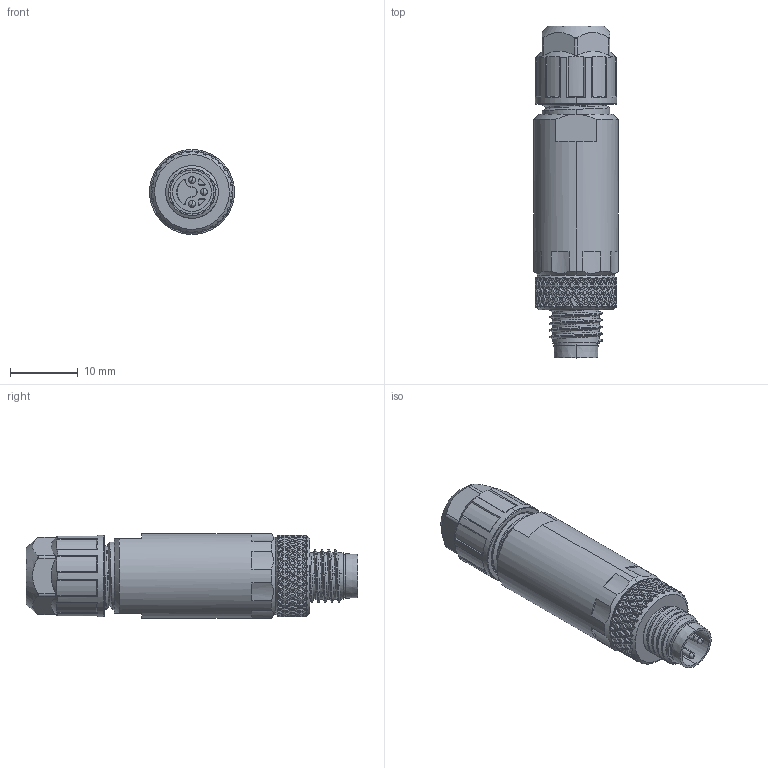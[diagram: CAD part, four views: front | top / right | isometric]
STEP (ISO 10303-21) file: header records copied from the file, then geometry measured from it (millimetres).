
FILE_DESCRIPTION (( 'STEP AP203' ), '1' );
FILE_NAME ('63F041.STEP', '2022-08-18T02:02:02', ( '' ), ( '' ), 'SwSTEP 2.0', 'SolidWorks 2016', '' );
FILE_SCHEMA (( 'CONFIG_CONTROL_DESIGN' ));
Products named in the file (1): 63F041
Bounding box: 12.48 x 48.85 x 12.5 mm (x, y, z)
Volume: 3889.7 mm3; surface area: 3918.2 mm2
Topology: 1 solids, 6 shells, 1585 faces, 3941 edges, 2371 vertices
Faces by surface type: bspline 1102, cylinder 268, plane 131, cone 84
Entity records: 124432 total; most frequent: CARTESIAN_POINT 95893, ORIENTED_EDGE 7870, EDGE_CURVE 3935, B_SPLINE_CURVE_WITH_KNOTS 2872, DIRECTION 2431, VERTEX_POINT 2371, EDGE_LOOP 1626, FACE_OUTER_BOUND 1585
